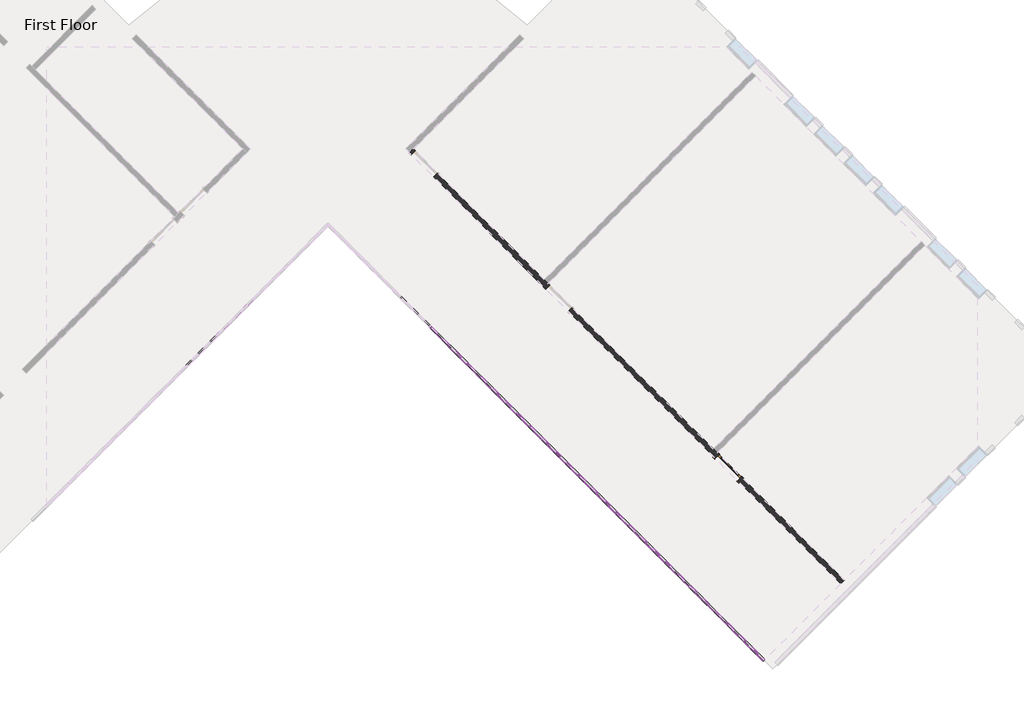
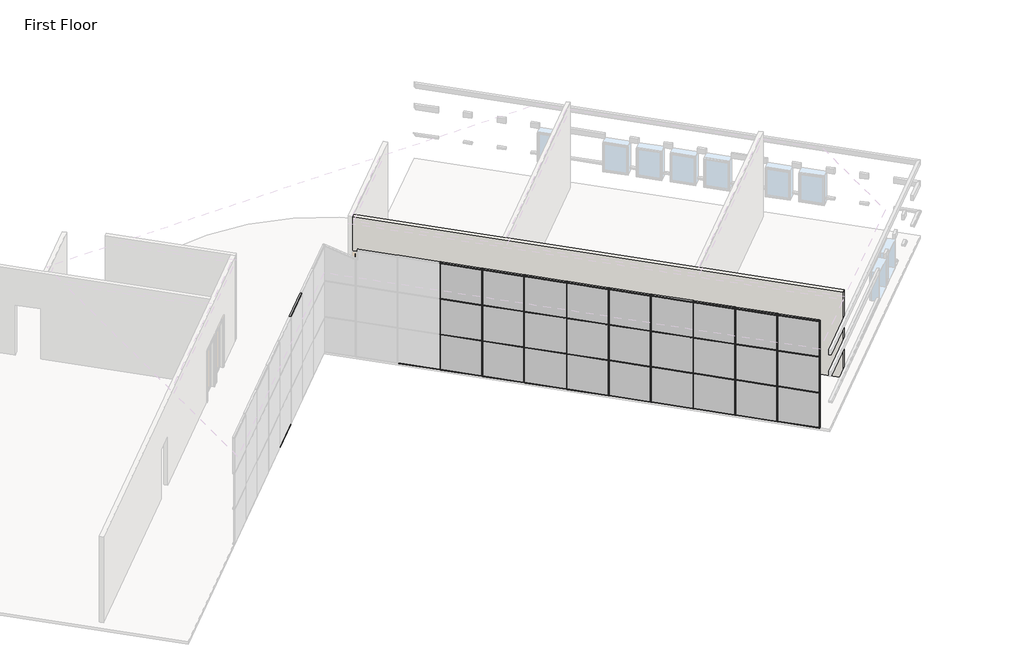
# One storey, part 2 of 5: 71 members, 27 plates, 1 door, 1 wall.
"""IFC4 building model written with IfcOpenShell, lengths in millimetres."""

from ifc_helpers import new_model, si_unit, origin, place, context, project, spatial, faceted_brep, transform, mapped, element, save
from components import door_5f5b55da, member_6121af53, member_155beb68, member_f5090587, member_42be4715, member_b8a5b5c0, member_b87a50da, system_panel_glazed_f8555db4, system_panel_glazed_da345f4e, system_panel_glazed_d4009c89, system_panel_glazed_f1e4c5b0, system_panel_solid_99f695d0, system_panel_solid_2f1037e2

model = new_model("IFC4")

# Units and contexts
model_context = context("Model", 3, world=origin())
ifc_project = project(units=[si_unit("LENGTHUNIT", "METRE", prefix="MILLI")], contexts=[model_context])

# Site, building, storey
site = spatial("IfcSite", under=ifc_project)
building = spatial("IfcBuilding", under=site)
storey = spatial("IfcBuildingStorey", under=building, Name="First Floor", Elevation=0.0)

# Door
placement = place(None, origin())
door_shape = door_5f5b55da(model_context)
element("IfcDoor", 1, ObjectType="Single-Glass 1 : 36\" x 84\"", at=placement, inside=storey, context=model_context, shape_type="MappedRepresentation", body=[
    mapped(door_shape, transform((8770.3835686, -4126.1534594, 0.0), x_axis=(-0.7071067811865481, 0.7071067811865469, 0.0), y_axis=(-0.7071067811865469, -0.7071067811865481, 0.0), z_axis=(0.0, 0.0, 1.0))),
])

# Members
member_shape = member_6121af53(model_context)
element("IfcMember", 2, ObjectType="Rectangular Mullion : 1.5\" x 2.5\" Rectangular", at=placement, inside=storey, context=model_context, shape_type="MappedRepresentation", body=[
    mapped(member_shape, transform((-6087.4501837, -266.8883914, 4572.0), x_axis=(0.0, 0.0, 1.0), y_axis=(-0.7071067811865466, 0.7071067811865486, 0.0), z_axis=(-0.7071067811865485, -0.7071067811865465, 0.0))),
])
element("IfcMember", 3, ObjectType="Rectangular Mullion : 1.5\" x 2.5\" Rectangular", at=placement, inside=storey, context=model_context, shape_type="MappedRepresentation", body=[
    mapped(member_shape, transform((2284.3935852, -2199.8885214, 4572.0), x_axis=(0.0, 0.0, 1.0), y_axis=(0.7071067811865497, 0.7071067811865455, 0.0), z_axis=(-0.7071067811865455, 0.7071067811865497, 0.0))),
])
element("IfcMember", 4, ObjectType="Rectangular Mullion : 1.5\" x 2.5\" Rectangular", at=placement, inside=storey, context=model_context, shape_type="MappedRepresentation", body=[
    mapped(member_shape, transform((3362.0243197, -3277.519256, 4572.0), x_axis=(0.0, 0.0, 1.0), y_axis=(0.70710678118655, 0.707106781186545, 0.0), z_axis=(-0.707106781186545, 0.70710678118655, 0.0))),
])
element("IfcMember", 5, ObjectType="Rectangular Mullion : 1.5\" x 2.5\" Rectangular", at=placement, inside=storey, context=model_context, shape_type="MappedRepresentation", body=[
    mapped(member_shape, transform((4439.6550542, -4355.1499905, 4572.0), x_axis=(0.0, 0.0, 1.0), y_axis=(0.7071067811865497, 0.7071067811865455, 0.0), z_axis=(-0.7071067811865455, 0.7071067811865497, 0.0))),
])
element("IfcMember", 6, ObjectType="Rectangular Mullion : 1.5\" x 2.5\" Rectangular", at=placement, inside=storey, context=model_context, shape_type="MappedRepresentation", body=[
    mapped(member_shape, transform((5517.2857887, -5432.780725, 4572.0), x_axis=(0.0, 0.0, 1.0), y_axis=(0.7071067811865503, 0.7071067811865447, 0.0), z_axis=(-0.7071067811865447, 0.7071067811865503, 0.0))),
])
element("IfcMember", 7, ObjectType="Rectangular Mullion : 1.5\" x 2.5\" Rectangular", at=placement, inside=storey, context=model_context, shape_type="MappedRepresentation", body=[
    mapped(member_shape, transform((6594.9165233, -6510.4114596, 4572.0), x_axis=(0.0, 0.0, 1.0), y_axis=(0.70710678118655, 0.707106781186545, 0.0), z_axis=(-0.7071067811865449, 0.7071067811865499, 0.0))),
])
element("IfcMember", 8, ObjectType="Rectangular Mullion : 1.5\" x 2.5\" Rectangular", at=placement, inside=storey, context=model_context, shape_type="MappedRepresentation", body=[
    mapped(member_shape, transform((7672.5472578, -7588.0421941, 4572.0), x_axis=(0.0, 0.0, 1.0), y_axis=(0.7071067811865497, 0.7071067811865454, 0.0), z_axis=(-0.7071067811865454, 0.7071067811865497, 0.0))),
])
element("IfcMember", 9, ObjectType="Rectangular Mullion : 1.5\" x 2.5\" Rectangular", at=placement, inside=storey, context=model_context, shape_type="MappedRepresentation", body=[
    mapped(member_shape, transform((1206.7628506, -1122.2577869, 4572.0), x_axis=(0.0, 0.0, 1.0), y_axis=(0.70710678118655, 0.707106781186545, 0.0), z_axis=(-0.707106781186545, 0.70710678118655, 0.0))),
])
element("IfcMember", 10, ObjectType="Rectangular Mullion : 1.5\" x 2.5\" Rectangular", at=placement, inside=storey, context=model_context, shape_type="MappedRepresentation", body=[
    mapped(member_shape, transform((129.1321161, -44.6270524, 4572.0), x_axis=(0.0, 0.0, 1.0), y_axis=(0.7071067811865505, 0.7071067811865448, 0.0), z_axis=(-0.7071067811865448, 0.7071067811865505, 0.0))),
])
member_2_shape = member_155beb68(model_context)
element("IfcMember", 11, ObjectType="Rectangular Mullion : 1.5\" x 2.5\" Rectangular", at=placement, inside=storey, context=model_context, shape_type="MappedRepresentation", body=[
    mapped(member_2_shape, transform((5503.8154046, -5419.3103408, 1524.0), x_axis=(-0.7071067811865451, 0.70710678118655, 0.0), y_axis=(0.70710678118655, 0.7071067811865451, 0.0), z_axis=(0.0, 0.0, -1.0))),
])
element("IfcMember", 12, ObjectType="Rectangular Mullion : 1.5\" x 2.5\" Rectangular", at=placement, inside=storey, context=model_context, shape_type="MappedRepresentation", body=[
    mapped(member_2_shape, transform((4426.18467, -4341.6796063, 1524.0), x_axis=(-0.7071067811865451, 0.70710678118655, 0.0), y_axis=(0.70710678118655, 0.7071067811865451, 0.0), z_axis=(0.0, 0.0, -1.0))),
])
element("IfcMember", 13, ObjectType="Rectangular Mullion : 1.5\" x 2.5\" Rectangular", at=placement, inside=storey, context=model_context, shape_type="MappedRepresentation", body=[
    mapped(member_2_shape, transform((3348.5539355, -3264.0488718, 1524.0), x_axis=(-0.7071067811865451, 0.70710678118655, 0.0), y_axis=(0.70710678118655, 0.7071067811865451, 0.0), z_axis=(0.0, 0.0, -1.0))),
])
element("IfcMember", 14, ObjectType="Rectangular Mullion : 1.5\" x 2.5\" Rectangular", at=placement, inside=storey, context=model_context, shape_type="MappedRepresentation", body=[
    mapped(member_2_shape, transform((2270.923201, -2186.4181373, 1524.0), x_axis=(-0.7071067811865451, 0.70710678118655, 0.0), y_axis=(0.70710678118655, 0.7071067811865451, 0.0), z_axis=(0.0, 0.0, -1.0))),
])
element("IfcMember", 15, ObjectType="Rectangular Mullion : 1.5\" x 2.5\" Rectangular", at=placement, inside=storey, context=model_context, shape_type="MappedRepresentation", body=[
    mapped(member_2_shape, transform((1193.2924664, -1108.7874027, 1524.0), x_axis=(-0.7071067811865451, 0.70710678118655, 0.0), y_axis=(0.70710678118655, 0.7071067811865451, 0.0), z_axis=(0.0, 0.0, -1.0))),
])
element("IfcMember", 16, ObjectType="Rectangular Mullion : 1.5\" x 2.5\" Rectangular", at=placement, inside=storey, context=model_context, shape_type="MappedRepresentation", body=[
    mapped(member_2_shape, transform((115.6617319, -31.1566682, 1524.0), x_axis=(-0.7071067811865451, 0.70710678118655, 0.0), y_axis=(0.70710678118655, 0.7071067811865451, 0.0), z_axis=(0.0, 0.0, -1.0))),
])
element("IfcMember", 17, ObjectType="Rectangular Mullion : 1.5\" x 2.5\" Rectangular", at=placement, inside=storey, context=model_context, shape_type="MappedRepresentation", body=[
    mapped(member_2_shape, transform((8736.7076081, -8652.2025444, 1524.0), x_axis=(-0.7071067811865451, 0.70710678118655, 0.0), y_axis=(0.70710678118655, 0.7071067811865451, 0.0), z_axis=(0.0, 0.0, -1.0))),
])
element("IfcMember", 18, ObjectType="Rectangular Mullion : 1.5\" x 2.5\" Rectangular", at=placement, inside=storey, context=model_context, shape_type="MappedRepresentation", body=[
    mapped(member_2_shape, transform((7659.0768736, -7574.5718099, 1524.0), x_axis=(-0.7071067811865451, 0.70710678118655, 0.0), y_axis=(0.70710678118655, 0.7071067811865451, 0.0), z_axis=(0.0, 0.0, -1.0))),
])
element("IfcMember", 19, ObjectType="Rectangular Mullion : 1.5\" x 2.5\" Rectangular", at=placement, inside=storey, context=model_context, shape_type="MappedRepresentation", body=[
    mapped(member_2_shape, transform((6581.4461391, -6496.9410754, 1524.0), x_axis=(-0.7071067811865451, 0.70710678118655, 0.0), y_axis=(0.70710678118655, 0.7071067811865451, 0.0), z_axis=(0.0, 0.0, -1.0))),
])
element("IfcMember", 20, ObjectType="Rectangular Mullion : 1.5\" x 2.5\" Rectangular", at=placement, inside=storey, context=model_context, shape_type="MappedRepresentation", body=[
    mapped(member_2_shape, transform((5503.8154046, -5419.3103408, 3048.0), x_axis=(-0.7071067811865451, 0.70710678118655, 0.0), y_axis=(0.70710678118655, 0.7071067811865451, 0.0), z_axis=(0.0, 0.0, -1.0))),
])
element("IfcMember", 21, ObjectType="Rectangular Mullion : 1.5\" x 2.5\" Rectangular", at=placement, inside=storey, context=model_context, shape_type="MappedRepresentation", body=[
    mapped(member_2_shape, transform((4426.18467, -4341.6796063, 3048.0), x_axis=(-0.7071067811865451, 0.70710678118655, 0.0), y_axis=(0.70710678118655, 0.7071067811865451, 0.0), z_axis=(0.0, 0.0, -1.0))),
])
element("IfcMember", 22, ObjectType="Rectangular Mullion : 1.5\" x 2.5\" Rectangular", at=placement, inside=storey, context=model_context, shape_type="MappedRepresentation", body=[
    mapped(member_2_shape, transform((3348.5539355, -3264.0488718, 3048.0), x_axis=(-0.7071067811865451, 0.70710678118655, 0.0), y_axis=(0.70710678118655, 0.7071067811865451, 0.0), z_axis=(0.0, 0.0, -1.0))),
])
element("IfcMember", 23, ObjectType="Rectangular Mullion : 1.5\" x 2.5\" Rectangular", at=placement, inside=storey, context=model_context, shape_type="MappedRepresentation", body=[
    mapped(member_2_shape, transform((2270.923201, -2186.4181373, 3048.0), x_axis=(-0.7071067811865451, 0.70710678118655, 0.0), y_axis=(0.70710678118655, 0.7071067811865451, 0.0), z_axis=(0.0, 0.0, -1.0))),
])
element("IfcMember", 24, ObjectType="Rectangular Mullion : 1.5\" x 2.5\" Rectangular", at=placement, inside=storey, context=model_context, shape_type="MappedRepresentation", body=[
    mapped(member_2_shape, transform((1193.2924664, -1108.7874027, 3048.0), x_axis=(-0.7071067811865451, 0.70710678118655, 0.0), y_axis=(0.70710678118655, 0.7071067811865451, 0.0), z_axis=(0.0, 0.0, -1.0))),
])
element("IfcMember", 25, ObjectType="Rectangular Mullion : 1.5\" x 2.5\" Rectangular", at=placement, inside=storey, context=model_context, shape_type="MappedRepresentation", body=[
    mapped(member_2_shape, transform((115.6617319, -31.1566682, 3048.0), x_axis=(-0.7071067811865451, 0.70710678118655, 0.0), y_axis=(0.70710678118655, 0.7071067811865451, 0.0), z_axis=(0.0, 0.0, -1.0))),
])
element("IfcMember", 26, ObjectType="Rectangular Mullion : 1.5\" x 2.5\" Rectangular", at=placement, inside=storey, context=model_context, shape_type="MappedRepresentation", body=[
    mapped(member_2_shape, transform((8736.7076081, -8652.2025444, 3048.0), x_axis=(-0.7071067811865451, 0.70710678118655, 0.0), y_axis=(0.70710678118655, 0.7071067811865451, 0.0), z_axis=(0.0, 0.0, -1.0))),
])
element("IfcMember", 27, ObjectType="Rectangular Mullion : 1.5\" x 2.5\" Rectangular", at=placement, inside=storey, context=model_context, shape_type="MappedRepresentation", body=[
    mapped(member_2_shape, transform((7659.0768736, -7574.5718099, 3048.0), x_axis=(-0.7071067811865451, 0.70710678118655, 0.0), y_axis=(0.70710678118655, 0.7071067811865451, 0.0), z_axis=(0.0, 0.0, -1.0))),
])
element("IfcMember", 28, ObjectType="Rectangular Mullion : 1.5\" x 2.5\" Rectangular", at=placement, inside=storey, context=model_context, shape_type="MappedRepresentation", body=[
    mapped(member_2_shape, transform((6581.4461391, -6496.9410754, 3048.0), x_axis=(-0.7071067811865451, 0.70710678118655, 0.0), y_axis=(0.70710678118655, 0.7071067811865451, 0.0), z_axis=(0.0, 0.0, -1.0))),
])
element("IfcMember", 29, ObjectType="Rectangular Mullion : 1.5\" x 2.5\" Rectangular", at=placement, inside=storey, context=model_context, shape_type="MappedRepresentation", body=[
    mapped(member_2_shape, transform((-6100.9205679, -280.3587756, 0.0), x_axis=(-0.7071067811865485, -0.7071067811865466, 0.0), y_axis=(-0.7071067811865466, 0.7071067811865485, 0.0), z_axis=(0.0, 0.0, -1.0))),
])
element("IfcMember", 30, ObjectType="Rectangular Mullion : 1.5\" x 2.5\" Rectangular", at=placement, inside=storey, context=model_context, shape_type="MappedRepresentation", body=[
    mapped(member_2_shape, transform((115.6617319, -31.1566682, 0.0), x_axis=(-0.7071067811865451, 0.70710678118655, 0.0), y_axis=(0.70710678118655, 0.7071067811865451, 0.0), z_axis=(0.0, 0.0, -1.0))),
])
element("IfcMember", 31, ObjectType="Rectangular Mullion : 1.5\" x 2.5\" Rectangular", at=placement, inside=storey, context=model_context, shape_type="MappedRepresentation", body=[
    mapped(member_2_shape, transform((1193.2924664, -1108.7874027, 0.0), x_axis=(-0.7071067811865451, 0.70710678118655, 0.0), y_axis=(0.70710678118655, 0.7071067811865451, 0.0), z_axis=(0.0, 0.0, -1.0))),
])
element("IfcMember", 32, ObjectType="Rectangular Mullion : 1.5\" x 2.5\" Rectangular", at=placement, inside=storey, context=model_context, shape_type="MappedRepresentation", body=[
    mapped(member_2_shape, transform((2270.923201, -2186.4181373, 0.0), x_axis=(-0.7071067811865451, 0.70710678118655, 0.0), y_axis=(0.70710678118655, 0.7071067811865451, 0.0), z_axis=(0.0, 0.0, -1.0))),
])
element("IfcMember", 33, ObjectType="Rectangular Mullion : 1.5\" x 2.5\" Rectangular", at=placement, inside=storey, context=model_context, shape_type="MappedRepresentation", body=[
    mapped(member_2_shape, transform((3348.5539355, -3264.0488718, 0.0), x_axis=(-0.7071067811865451, 0.70710678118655, 0.0), y_axis=(0.70710678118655, 0.7071067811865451, 0.0), z_axis=(0.0, 0.0, -1.0))),
])
element("IfcMember", 34, ObjectType="Rectangular Mullion : 1.5\" x 2.5\" Rectangular", at=placement, inside=storey, context=model_context, shape_type="MappedRepresentation", body=[
    mapped(member_2_shape, transform((4426.18467, -4341.6796063, 0.0), x_axis=(-0.7071067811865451, 0.70710678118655, 0.0), y_axis=(0.70710678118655, 0.7071067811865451, 0.0), z_axis=(0.0, 0.0, -1.0))),
])
element("IfcMember", 35, ObjectType="Rectangular Mullion : 1.5\" x 2.5\" Rectangular", at=placement, inside=storey, context=model_context, shape_type="MappedRepresentation", body=[
    mapped(member_2_shape, transform((5503.8154046, -5419.3103408, 0.0), x_axis=(-0.7071067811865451, 0.70710678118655, 0.0), y_axis=(0.70710678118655, 0.7071067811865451, 0.0), z_axis=(0.0, 0.0, -1.0))),
])
element("IfcMember", 36, ObjectType="Rectangular Mullion : 1.5\" x 2.5\" Rectangular", at=placement, inside=storey, context=model_context, shape_type="MappedRepresentation", body=[
    mapped(member_2_shape, transform((6581.4461391, -6496.9410754, 0.0), x_axis=(-0.7071067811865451, 0.70710678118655, 0.0), y_axis=(0.70710678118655, 0.7071067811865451, 0.0), z_axis=(0.0, 0.0, -1.0))),
])
element("IfcMember", 37, ObjectType="Rectangular Mullion : 1.5\" x 2.5\" Rectangular", at=placement, inside=storey, context=model_context, shape_type="MappedRepresentation", body=[
    mapped(member_2_shape, transform((7659.0768736, -7574.5718099, 0.0), x_axis=(-0.7071067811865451, 0.70710678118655, 0.0), y_axis=(0.70710678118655, 0.7071067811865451, 0.0), z_axis=(0.0, 0.0, -1.0))),
])
element("IfcMember", 38, ObjectType="Rectangular Mullion : 1.5\" x 2.5\" Rectangular", at=placement, inside=storey, context=model_context, shape_type="MappedRepresentation", body=[
    mapped(member_2_shape, transform((8736.7076081, -8652.2025444, 0.0), x_axis=(-0.7071067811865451, 0.70710678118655, 0.0), y_axis=(0.70710678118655, 0.7071067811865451, 0.0), z_axis=(0.0, 0.0, -1.0))),
])
member_3_shape = member_f5090587(model_context)
element("IfcMember", 39, ObjectType="Rectangular Mullion : 1.5\" x 2.5\" Rectangular", at=placement, inside=storey, context=model_context, shape_type="MappedRepresentation", body=[
    mapped(member_3_shape, transform((8750.1779923, -8665.6729286, 3048.0), x_axis=(0.0, 0.0, 1.0), y_axis=(0.7071067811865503, 0.7071067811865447, 0.0), z_axis=(-0.7071067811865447, 0.7071067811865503, 0.0))),
])
element("IfcMember", 40, ObjectType="Rectangular Mullion : 1.5\" x 2.5\" Rectangular", at=placement, inside=storey, context=model_context, shape_type="MappedRepresentation", body=[
    mapped(member_3_shape, transform((8750.1779923, -8665.6729286, 1524.0), x_axis=(0.0, 0.0, 1.0), y_axis=(0.7071067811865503, 0.7071067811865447, 0.0), z_axis=(-0.7071067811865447, 0.7071067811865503, 0.0))),
])
member_4_shape = member_42be4715(model_context)
element("IfcMember", 41, ObjectType="Rectangular Mullion : 1.5\" x 2.5\" Rectangular", at=placement, inside=storey, context=model_context, shape_type="MappedRepresentation", body=[
    mapped(member_4_shape, transform((-6087.4501837, -266.8883914, 1524.0), x_axis=(0.0, 0.0, 1.0), y_axis=(-0.7071067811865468, 0.7071067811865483, 0.0), z_axis=(-0.7071067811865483, -0.7071067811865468, 0.0))),
])
element("IfcMember", 42, ObjectType="Rectangular Mullion : 1.5\" x 2.5\" Rectangular", at=placement, inside=storey, context=model_context, shape_type="MappedRepresentation", body=[
    mapped(member_4_shape, transform((129.1321161, -44.6270524, 3048.0), x_axis=(0.0, 0.0, 1.0), y_axis=(0.7071067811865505, 0.7071067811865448, 0.0), z_axis=(-0.7071067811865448, 0.7071067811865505, 0.0))),
])
element("IfcMember", 43, ObjectType="Rectangular Mullion : 1.5\" x 2.5\" Rectangular", at=placement, inside=storey, context=model_context, shape_type="MappedRepresentation", body=[
    mapped(member_4_shape, transform((1206.7628506, -1122.2577869, 3048.0), x_axis=(0.0, 0.0, 1.0), y_axis=(0.70710678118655, 0.707106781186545, 0.0), z_axis=(-0.707106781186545, 0.70710678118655, 0.0))),
])
element("IfcMember", 44, ObjectType="Rectangular Mullion : 1.5\" x 2.5\" Rectangular", at=placement, inside=storey, context=model_context, shape_type="MappedRepresentation", body=[
    mapped(member_4_shape, transform((2284.3935852, -2199.8885214, 3048.0), x_axis=(0.0, 0.0, 1.0), y_axis=(0.7071067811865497, 0.7071067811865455, 0.0), z_axis=(-0.7071067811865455, 0.7071067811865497, 0.0))),
])
element("IfcMember", 45, ObjectType="Rectangular Mullion : 1.5\" x 2.5\" Rectangular", at=placement, inside=storey, context=model_context, shape_type="MappedRepresentation", body=[
    mapped(member_4_shape, transform((3362.0243197, -3277.519256, 3048.0), x_axis=(0.0, 0.0, 1.0), y_axis=(0.70710678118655, 0.707106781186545, 0.0), z_axis=(-0.707106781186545, 0.70710678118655, 0.0))),
])
element("IfcMember", 46, ObjectType="Rectangular Mullion : 1.5\" x 2.5\" Rectangular", at=placement, inside=storey, context=model_context, shape_type="MappedRepresentation", body=[
    mapped(member_4_shape, transform((4439.6550542, -4355.1499905, 3048.0), x_axis=(0.0, 0.0, 1.0), y_axis=(0.7071067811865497, 0.7071067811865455, 0.0), z_axis=(-0.7071067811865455, 0.7071067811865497, 0.0))),
])
element("IfcMember", 47, ObjectType="Rectangular Mullion : 1.5\" x 2.5\" Rectangular", at=placement, inside=storey, context=model_context, shape_type="MappedRepresentation", body=[
    mapped(member_4_shape, transform((5517.2857887, -5432.780725, 3048.0), x_axis=(0.0, 0.0, 1.0), y_axis=(0.7071067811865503, 0.7071067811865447, 0.0), z_axis=(-0.7071067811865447, 0.7071067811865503, 0.0))),
])
element("IfcMember", 48, ObjectType="Rectangular Mullion : 1.5\" x 2.5\" Rectangular", at=placement, inside=storey, context=model_context, shape_type="MappedRepresentation", body=[
    mapped(member_4_shape, transform((6594.9165233, -6510.4114596, 3048.0), x_axis=(0.0, 0.0, 1.0), y_axis=(0.7071067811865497, 0.7071067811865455, 0.0), z_axis=(-0.7071067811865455, 0.7071067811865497, 0.0))),
])
element("IfcMember", 49, ObjectType="Rectangular Mullion : 1.5\" x 2.5\" Rectangular", at=placement, inside=storey, context=model_context, shape_type="MappedRepresentation", body=[
    mapped(member_4_shape, transform((7672.5472578, -7588.0421941, 3048.0), x_axis=(0.0, 0.0, 1.0), y_axis=(0.70710678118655, 0.707106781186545, 0.0), z_axis=(-0.707106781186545, 0.70710678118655, 0.0))),
])
element("IfcMember", 50, ObjectType="Rectangular Mullion : 1.5\" x 2.5\" Rectangular", at=placement, inside=storey, context=model_context, shape_type="MappedRepresentation", body=[
    mapped(member_4_shape, transform((129.1321161, -44.6270524, 1524.0), x_axis=(0.0, 0.0, 1.0), y_axis=(0.7071067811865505, 0.7071067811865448, 0.0), z_axis=(-0.7071067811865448, 0.7071067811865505, 0.0))),
])
element("IfcMember", 51, ObjectType="Rectangular Mullion : 1.5\" x 2.5\" Rectangular", at=placement, inside=storey, context=model_context, shape_type="MappedRepresentation", body=[
    mapped(member_4_shape, transform((1206.7628506, -1122.2577869, 1524.0), x_axis=(0.0, 0.0, 1.0), y_axis=(0.7071067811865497, 0.7071067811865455, 0.0), z_axis=(-0.7071067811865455, 0.7071067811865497, 0.0))),
])
element("IfcMember", 52, ObjectType="Rectangular Mullion : 1.5\" x 2.5\" Rectangular", at=placement, inside=storey, context=model_context, shape_type="MappedRepresentation", body=[
    mapped(member_4_shape, transform((2284.3935852, -2199.8885214, 1524.0), x_axis=(0.0, 0.0, 1.0), y_axis=(0.70710678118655, 0.707106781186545, 0.0), z_axis=(-0.707106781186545, 0.70710678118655, 0.0))),
])
element("IfcMember", 53, ObjectType="Rectangular Mullion : 1.5\" x 2.5\" Rectangular", at=placement, inside=storey, context=model_context, shape_type="MappedRepresentation", body=[
    mapped(member_4_shape, transform((3362.0243197, -3277.519256, 1524.0), x_axis=(0.0, 0.0, 1.0), y_axis=(0.70710678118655, 0.707106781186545, 0.0), z_axis=(-0.707106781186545, 0.70710678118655, 0.0))),
])
element("IfcMember", 54, ObjectType="Rectangular Mullion : 1.5\" x 2.5\" Rectangular", at=placement, inside=storey, context=model_context, shape_type="MappedRepresentation", body=[
    mapped(member_4_shape, transform((4439.6550542, -4355.1499905, 1524.0), x_axis=(0.0, 0.0, 1.0), y_axis=(0.7071067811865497, 0.7071067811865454, 0.0), z_axis=(-0.7071067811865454, 0.7071067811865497, 0.0))),
])
element("IfcMember", 55, ObjectType="Rectangular Mullion : 1.5\" x 2.5\" Rectangular", at=placement, inside=storey, context=model_context, shape_type="MappedRepresentation", body=[
    mapped(member_4_shape, transform((5517.2857887, -5432.780725, 1524.0), x_axis=(0.0, 0.0, 1.0), y_axis=(0.7071067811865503, 0.7071067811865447, 0.0), z_axis=(-0.7071067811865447, 0.7071067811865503, 0.0))),
])
element("IfcMember", 56, ObjectType="Rectangular Mullion : 1.5\" x 2.5\" Rectangular", at=placement, inside=storey, context=model_context, shape_type="MappedRepresentation", body=[
    mapped(member_4_shape, transform((6594.9165233, -6510.4114596, 1524.0), x_axis=(0.0, 0.0, 1.0), y_axis=(0.7071067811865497, 0.7071067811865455, 0.0), z_axis=(-0.7071067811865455, 0.7071067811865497, 0.0))),
])
element("IfcMember", 57, ObjectType="Rectangular Mullion : 1.5\" x 2.5\" Rectangular", at=placement, inside=storey, context=model_context, shape_type="MappedRepresentation", body=[
    mapped(member_4_shape, transform((7672.5472578, -7588.0421941, 1524.0), x_axis=(0.0, 0.0, 1.0), y_axis=(0.70710678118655, 0.707106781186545, 0.0), z_axis=(-0.707106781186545, 0.70710678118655, 0.0))),
])
member_5_shape = member_b8a5b5c0(model_context)
element("IfcMember", 58, ObjectType="Rectangular Mullion : 1.5\" x 2.5\" Rectangular", at=placement, inside=storey, context=model_context, shape_type="MappedRepresentation", body=[
    mapped(member_5_shape, transform((9787.3975743, -9702.8925106, 0.0), x_axis=(0.0, 0.0, -1.0), y_axis=(0.7071067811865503, 0.7071067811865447, 0.0), z_axis=(0.7071067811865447, -0.7071067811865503, 0.0))),
])
element("IfcMember", 59, ObjectType="Rectangular Mullion : 1.5\" x 2.5\" Rectangular", at=placement, inside=storey, context=model_context, shape_type="MappedRepresentation", body=[
    mapped(member_shape, transform((-6114.3909521, -293.8291597, 0.0), x_axis=(0.0, 0.0, -1.0), y_axis=(-0.7071067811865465, 0.7071067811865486, 0.0), z_axis=(0.7071067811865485, 0.7071067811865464, 0.0))),
])
element("IfcMember", 60, ObjectType="Rectangular Mullion : 1.5\" x 2.5\" Rectangular", at=placement, inside=storey, context=model_context, shape_type="MappedRepresentation", body=[
    mapped(member_shape, transform((6567.9757549, -6483.4706912, 0.0), x_axis=(0.0, 0.0, -1.0), y_axis=(0.7071067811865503, 0.7071067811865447, 0.0), z_axis=(0.7071067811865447, -0.7071067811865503, 0.0))),
])
element("IfcMember", 61, ObjectType="Rectangular Mullion : 1.5\" x 2.5\" Rectangular", at=placement, inside=storey, context=model_context, shape_type="MappedRepresentation", body=[
    mapped(member_shape, transform((7645.6064894, -7561.1014257, 0.0), x_axis=(0.0, 0.0, -1.0), y_axis=(0.7071067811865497, 0.7071067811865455, 0.0), z_axis=(0.7071067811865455, -0.7071067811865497, 0.0))),
])
element("IfcMember", 62, ObjectType="Rectangular Mullion : 1.5\" x 2.5\" Rectangular", at=placement, inside=storey, context=model_context, shape_type="MappedRepresentation", body=[
    mapped(member_shape, transform((8723.237224, -8638.7321603, 0.0), x_axis=(0.0, 0.0, -1.0), y_axis=(0.70710678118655, 0.707106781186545, 0.0), z_axis=(0.707106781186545, -0.70710678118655, 0.0))),
])
element("IfcMember", 63, ObjectType="Rectangular Mullion : 1.5\" x 2.5\" Rectangular", at=placement, inside=storey, context=model_context, shape_type="MappedRepresentation", body=[
    mapped(member_shape, transform((102.1913477, -17.686284, 0.0), x_axis=(0.0, 0.0, -1.0), y_axis=(0.7071067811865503, 0.7071067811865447, 0.0), z_axis=(0.7071067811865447, -0.7071067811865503, 0.0))),
])
element("IfcMember", 64, ObjectType="Rectangular Mullion : 1.5\" x 2.5\" Rectangular", at=placement, inside=storey, context=model_context, shape_type="MappedRepresentation", body=[
    mapped(member_shape, transform((1179.8220823, -1095.3170186, 0.0), x_axis=(0.0, 0.0, -1.0), y_axis=(0.7071067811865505, 0.7071067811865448, 0.0), z_axis=(0.7071067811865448, -0.7071067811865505, 0.0))),
])
element("IfcMember", 65, ObjectType="Rectangular Mullion : 1.5\" x 2.5\" Rectangular", at=placement, inside=storey, context=model_context, shape_type="MappedRepresentation", body=[
    mapped(member_shape, transform((2257.4528168, -2172.9477531, 0.0), x_axis=(0.0, 0.0, -1.0), y_axis=(0.7071067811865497, 0.7071067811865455, 0.0), z_axis=(0.7071067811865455, -0.7071067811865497, 0.0))),
])
element("IfcMember", 66, ObjectType="Rectangular Mullion : 1.5\" x 2.5\" Rectangular", at=placement, inside=storey, context=model_context, shape_type="MappedRepresentation", body=[
    mapped(member_shape, transform((3335.0835513, -3250.5784876, 0.0), x_axis=(0.0, 0.0, -1.0), y_axis=(0.70710678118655, 0.707106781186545, 0.0), z_axis=(0.707106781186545, -0.70710678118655, 0.0))),
])
element("IfcMember", 67, ObjectType="Rectangular Mullion : 1.5\" x 2.5\" Rectangular", at=placement, inside=storey, context=model_context, shape_type="MappedRepresentation", body=[
    mapped(member_shape, transform((4412.7142859, -4328.2092221, 0.0), x_axis=(0.0, 0.0, -1.0), y_axis=(0.70710678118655, 0.707106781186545, 0.0), z_axis=(0.707106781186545, -0.70710678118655, 0.0))),
])
element("IfcMember", 68, ObjectType="Rectangular Mullion : 1.5\" x 2.5\" Rectangular", at=placement, inside=storey, context=model_context, shape_type="MappedRepresentation", body=[
    mapped(member_shape, transform((5490.3450204, -5405.8399567, 0.0), x_axis=(0.0, 0.0, -1.0), y_axis=(0.7071067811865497, 0.7071067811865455, 0.0), z_axis=(0.7071067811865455, -0.7071067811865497, 0.0))),
])
element("IfcMember", 69, ObjectType="Rectangular Mullion : 1.5\" x 2.5\" Rectangular", at=placement, inside=storey, context=model_context, shape_type="MappedRepresentation", body=[
    mapped(member_5_shape, transform((8750.1779923, -8665.6729286, 4572.0), x_axis=(0.0, 0.0, 1.0), y_axis=(0.7071067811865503, 0.7071067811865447, 0.0), z_axis=(-0.7071067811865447, 0.7071067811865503, 0.0))),
])
member_6_shape = member_b87a50da(model_context)
element("IfcMember", 70, ObjectType="Rectangular Mullion : 1.5\" x 2.5\" Rectangular", at=placement, inside=storey, context=model_context, shape_type="MappedRepresentation", body=[
    mapped(member_6_shape, transform((9814.3383427, -9729.833279, 1524.0), x_axis=(0.7071067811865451, -0.70710678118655, 0.0), y_axis=(0.70710678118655, 0.7071067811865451, 0.0), z_axis=(0.0, 0.0, 1.0))),
])
element("IfcMember", 71, ObjectType="Rectangular Mullion : 1.5\" x 2.5\" Rectangular", at=placement, inside=storey, context=model_context, shape_type="MappedRepresentation", body=[
    mapped(member_6_shape, transform((9814.3383427, -9729.833279, 3048.0), x_axis=(0.7071067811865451, -0.70710678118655, 0.0), y_axis=(0.70710678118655, 0.7071067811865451, 0.0), z_axis=(0.0, 0.0, 1.0))),
])
element("IfcMember", 72, ObjectType="Rectangular Mullion : 1.5\" x 2.5\" Rectangular", at=placement, inside=storey, context=model_context, shape_type="MappedRepresentation", body=[
    mapped(member_6_shape, transform((9814.3383427, -9729.833279, 4572.0), x_axis=(0.7071067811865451, -0.70710678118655, 0.0), y_axis=(0.70710678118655, 0.7071067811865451, 0.0), z_axis=(0.0, 0.0, 1.0))),
])

# Plates
system_panel_glazed_shape = system_panel_glazed_f8555db4(model_context)
element("IfcPlate", 73, ObjectType="System Panel : Glazed", at=placement, inside=storey, context=model_context, shape_type="MappedRepresentation", body=[
    mapped(system_panel_glazed_shape, transform((9268.7877833, -9184.2827196, 38.1), x_axis=(-0.7071067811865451, 0.70710678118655, 0.0), y_axis=(-0.70710678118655, -0.7071067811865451, 0.0), z_axis=(0.0, 0.0, 1.0))),
])
system_panel_glazed_2_shape = system_panel_glazed_da345f4e(model_context)
element("IfcPlate", 74, ObjectType="System Panel : Glazed", at=placement, inside=storey, context=model_context, shape_type="MappedRepresentation", body=[
    mapped(system_panel_glazed_2_shape, transform((8197.8922409, -8113.3871772, 38.1), x_axis=(-0.7071067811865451, 0.70710678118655, 0.0), y_axis=(-0.70710678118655, -0.7071067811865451, 0.0), z_axis=(0.0, 0.0, 1.0))),
])
element("IfcPlate", 75, ObjectType="System Panel : Glazed", at=placement, inside=storey, context=model_context, shape_type="MappedRepresentation", body=[
    mapped(system_panel_glazed_2_shape, transform((7120.2615064, -7035.7564426, 38.1), x_axis=(-0.7071067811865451, 0.70710678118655, 0.0), y_axis=(-0.70710678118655, -0.7071067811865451, 0.0), z_axis=(0.0, 0.0, 1.0))),
])
element("IfcPlate", 76, ObjectType="System Panel : Glazed", at=placement, inside=storey, context=model_context, shape_type="MappedRepresentation", body=[
    mapped(system_panel_glazed_2_shape, transform((6042.6307718, -5958.1257081, 38.1), x_axis=(-0.7071067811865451, 0.70710678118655, 0.0), y_axis=(-0.70710678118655, -0.7071067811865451, 0.0), z_axis=(0.0, 0.0, 1.0))),
])
element("IfcPlate", 77, ObjectType="System Panel : Glazed", at=placement, inside=storey, context=model_context, shape_type="MappedRepresentation", body=[
    mapped(system_panel_glazed_2_shape, transform((4965.0000373, -4880.4949736, 38.1), x_axis=(-0.7071067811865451, 0.70710678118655, 0.0), y_axis=(-0.70710678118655, -0.7071067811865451, 0.0), z_axis=(0.0, 0.0, 1.0))),
])
element("IfcPlate", 78, ObjectType="System Panel : Glazed", at=placement, inside=storey, context=model_context, shape_type="MappedRepresentation", body=[
    mapped(system_panel_glazed_2_shape, transform((3887.3693028, -3802.8642391, 38.1), x_axis=(-0.7071067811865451, 0.70710678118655, 0.0), y_axis=(-0.70710678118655, -0.7071067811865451, 0.0), z_axis=(0.0, 0.0, 1.0))),
])
element("IfcPlate", 79, ObjectType="System Panel : Glazed", at=placement, inside=storey, context=model_context, shape_type="MappedRepresentation", body=[
    mapped(system_panel_glazed_2_shape, transform((2809.7385682, -2725.2335045, 38.1), x_axis=(-0.7071067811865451, 0.70710678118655, 0.0), y_axis=(-0.70710678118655, -0.7071067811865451, 0.0), z_axis=(0.0, 0.0, 1.0))),
])
element("IfcPlate", 80, ObjectType="System Panel : Glazed", at=placement, inside=storey, context=model_context, shape_type="MappedRepresentation", body=[
    mapped(system_panel_glazed_2_shape, transform((1732.1078337, -1647.60277, 38.1), x_axis=(-0.7071067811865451, 0.70710678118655, 0.0), y_axis=(-0.70710678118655, -0.7071067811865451, 0.0), z_axis=(0.0, 0.0, 1.0))),
])
element("IfcPlate", 81, ObjectType="System Panel : Glazed", at=placement, inside=storey, context=model_context, shape_type="MappedRepresentation", body=[
    mapped(system_panel_glazed_2_shape, transform((654.4770992, -569.9720355, 38.1), x_axis=(-0.7071067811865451, 0.70710678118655, 0.0), y_axis=(-0.70710678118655, -0.7071067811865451, 0.0), z_axis=(0.0, 0.0, 1.0))),
])
system_panel_glazed_3_shape = system_panel_glazed_d4009c89(model_context)
element("IfcPlate", 82, ObjectType="System Panel : Glazed", at=placement, inside=storey, context=model_context, shape_type="MappedRepresentation", body=[
    mapped(system_panel_glazed_3_shape, transform((9268.7877833, -9184.2827196, 1543.05), x_axis=(-0.7071067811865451, 0.70710678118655, 0.0), y_axis=(-0.70710678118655, -0.7071067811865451, 0.0), z_axis=(0.0, 0.0, 1.0))),
])
system_panel_glazed_4_shape = system_panel_glazed_f1e4c5b0(model_context)
element("IfcPlate", 83, ObjectType="System Panel : Glazed", at=placement, inside=storey, context=model_context, shape_type="MappedRepresentation", body=[
    mapped(system_panel_glazed_4_shape, transform((8197.8922409, -8113.3871772, 1543.05), x_axis=(-0.7071067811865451, 0.70710678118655, 0.0), y_axis=(-0.70710678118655, -0.7071067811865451, 0.0), z_axis=(0.0, 0.0, 1.0))),
])
element("IfcPlate", 84, ObjectType="System Panel : Glazed", at=placement, inside=storey, context=model_context, shape_type="MappedRepresentation", body=[
    mapped(system_panel_glazed_4_shape, transform((7120.2615064, -7035.7564426, 1543.05), x_axis=(-0.7071067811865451, 0.70710678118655, 0.0), y_axis=(-0.70710678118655, -0.7071067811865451, 0.0), z_axis=(0.0, 0.0, 1.0))),
])
element("IfcPlate", 85, ObjectType="System Panel : Glazed", at=placement, inside=storey, context=model_context, shape_type="MappedRepresentation", body=[
    mapped(system_panel_glazed_4_shape, transform((6042.6307718, -5958.1257081, 1543.05), x_axis=(-0.7071067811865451, 0.70710678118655, 0.0), y_axis=(-0.70710678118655, -0.7071067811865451, 0.0), z_axis=(0.0, 0.0, 1.0))),
])
element("IfcPlate", 86, ObjectType="System Panel : Glazed", at=placement, inside=storey, context=model_context, shape_type="MappedRepresentation", body=[
    mapped(system_panel_glazed_4_shape, transform((4965.0000373, -4880.4949736, 1543.05), x_axis=(-0.7071067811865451, 0.70710678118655, 0.0), y_axis=(-0.70710678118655, -0.7071067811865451, 0.0), z_axis=(0.0, 0.0, 1.0))),
])
element("IfcPlate", 87, ObjectType="System Panel : Glazed", at=placement, inside=storey, context=model_context, shape_type="MappedRepresentation", body=[
    mapped(system_panel_glazed_4_shape, transform((3887.3693028, -3802.8642391, 1543.05), x_axis=(-0.7071067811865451, 0.70710678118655, 0.0), y_axis=(-0.70710678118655, -0.7071067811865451, 0.0), z_axis=(0.0, 0.0, 1.0))),
])
element("IfcPlate", 88, ObjectType="System Panel : Glazed", at=placement, inside=storey, context=model_context, shape_type="MappedRepresentation", body=[
    mapped(system_panel_glazed_4_shape, transform((2809.7385682, -2725.2335045, 1543.05), x_axis=(-0.7071067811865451, 0.70710678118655, 0.0), y_axis=(-0.70710678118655, -0.7071067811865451, 0.0), z_axis=(0.0, 0.0, 1.0))),
])
element("IfcPlate", 89, ObjectType="System Panel : Glazed", at=placement, inside=storey, context=model_context, shape_type="MappedRepresentation", body=[
    mapped(system_panel_glazed_4_shape, transform((1732.1078337, -1647.60277, 1543.05), x_axis=(-0.7071067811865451, 0.70710678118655, 0.0), y_axis=(-0.70710678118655, -0.7071067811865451, 0.0), z_axis=(0.0, 0.0, 1.0))),
])
element("IfcPlate", 90, ObjectType="System Panel : Glazed", at=placement, inside=storey, context=model_context, shape_type="MappedRepresentation", body=[
    mapped(system_panel_glazed_4_shape, transform((654.4770992, -569.9720355, 1543.05), x_axis=(-0.7071067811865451, 0.70710678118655, 0.0), y_axis=(-0.70710678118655, -0.7071067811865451, 0.0), z_axis=(0.0, 0.0, 1.0))),
])
system_panel_solid_shape = system_panel_solid_99f695d0(model_context)
element("IfcPlate", 91, ObjectType="System Panel : Solid", at=placement, inside=storey, context=model_context, shape_type="MappedRepresentation", body=[
    mapped(system_panel_solid_shape, transform((9268.7877833, -9184.2827196, 3067.05), x_axis=(-0.7071067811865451, 0.70710678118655, 0.0), y_axis=(-0.70710678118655, -0.7071067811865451, 0.0), z_axis=(0.0, 0.0, 1.0))),
])
system_panel_solid_2_shape = system_panel_solid_2f1037e2(model_context)
element("IfcPlate", 92, ObjectType="System Panel : Solid", at=placement, inside=storey, context=model_context, shape_type="MappedRepresentation", body=[
    mapped(system_panel_solid_2_shape, transform((8197.8922409, -8113.3871772, 3067.05), x_axis=(-0.7071067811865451, 0.70710678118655, 0.0), y_axis=(-0.70710678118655, -0.7071067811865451, 0.0), z_axis=(0.0, 0.0, 1.0))),
])
element("IfcPlate", 93, ObjectType="System Panel : Solid", at=placement, inside=storey, context=model_context, shape_type="MappedRepresentation", body=[
    mapped(system_panel_solid_2_shape, transform((7120.2615064, -7035.7564426, 3067.05), x_axis=(-0.7071067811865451, 0.70710678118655, 0.0), y_axis=(-0.70710678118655, -0.7071067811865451, 0.0), z_axis=(0.0, 0.0, 1.0))),
])
element("IfcPlate", 94, ObjectType="System Panel : Solid", at=placement, inside=storey, context=model_context, shape_type="MappedRepresentation", body=[
    mapped(system_panel_solid_2_shape, transform((6042.6307718, -5958.1257081, 3067.05), x_axis=(-0.7071067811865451, 0.70710678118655, 0.0), y_axis=(-0.70710678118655, -0.7071067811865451, 0.0), z_axis=(0.0, 0.0, 1.0))),
])
element("IfcPlate", 95, ObjectType="System Panel : Solid", at=placement, inside=storey, context=model_context, shape_type="MappedRepresentation", body=[
    mapped(system_panel_solid_2_shape, transform((4965.0000373, -4880.4949736, 3067.05), x_axis=(-0.7071067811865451, 0.70710678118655, 0.0), y_axis=(-0.70710678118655, -0.7071067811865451, 0.0), z_axis=(0.0, 0.0, 1.0))),
])
element("IfcPlate", 96, ObjectType="System Panel : Solid", at=placement, inside=storey, context=model_context, shape_type="MappedRepresentation", body=[
    mapped(system_panel_solid_2_shape, transform((3887.3693028, -3802.8642391, 3067.05), x_axis=(-0.7071067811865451, 0.70710678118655, 0.0), y_axis=(-0.70710678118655, -0.7071067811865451, 0.0), z_axis=(0.0, 0.0, 1.0))),
])
element("IfcPlate", 97, ObjectType="System Panel : Solid", at=placement, inside=storey, context=model_context, shape_type="MappedRepresentation", body=[
    mapped(system_panel_solid_2_shape, transform((2809.7385682, -2725.2335045, 3067.05), x_axis=(-0.7071067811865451, 0.70710678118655, 0.0), y_axis=(-0.70710678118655, -0.7071067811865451, 0.0), z_axis=(0.0, 0.0, 1.0))),
])
element("IfcPlate", 98, ObjectType="System Panel : Solid", at=placement, inside=storey, context=model_context, shape_type="MappedRepresentation", body=[
    mapped(system_panel_solid_2_shape, transform((1732.1078337, -1647.60277, 3067.05), x_axis=(-0.7071067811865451, 0.70710678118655, 0.0), y_axis=(-0.70710678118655, -0.7071067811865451, 0.0), z_axis=(0.0, 0.0, 1.0))),
])
element("IfcPlate", 99, ObjectType="System Panel : Solid", at=placement, inside=storey, context=model_context, shape_type="MappedRepresentation", body=[
    mapped(system_panel_solid_2_shape, transform((654.4770992, -569.9720355, 3067.05), x_axis=(-0.7071067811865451, 0.70710678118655, 0.0), y_axis=(-0.70710678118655, -0.7071067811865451, 0.0), z_axis=(0.0, 0.0, 1.0))),
])

# Wall
element("IfcWall", 100, ObjectType="Interior - 6 1/8\" Partition (2-hr)", at=placement, inside=storey, context=model_context, shape_type="Brep", body=[
    faceted_brep([(8502.098417, -3747.8601703, 2133.6), (8502.098417, -3747.8601703, 0.0), (8449.3394123, -3695.1011656, 0.0), (8339.3312748, -3585.0930281, 0.0), (4225.2514393, 528.9868073, 0.0), (4225.2514393, 528.9868073, 2133.6), (3578.6729986, 1175.5652481, 2133.6), (3578.6729986, 1175.5652481, 0.0), (3525.9139939, 1228.3242528, 0.0), (3415.9058564, 1338.3323903, 0.0), (311.86927, 4442.3689766, 0.0), (311.86927, 4442.3689766, 2133.6), (-334.7091707, 5088.9474174, 2133.6), (-334.7091707, 5088.9474174, 0.0), (-387.4681754, 5141.7064221, 0.0), (-387.4681754, 5141.7064221, 3657.6), (3415.9058564, 1338.3323903, 3657.6), (3525.9139939, 1228.3242528, 3657.6), (8339.3312748, -3585.0930281, 3657.6), (8449.3394123, -3695.1011656, 3657.6), (12149.2049342, -7394.9666875, 3657.6), (12149.2049342, -7394.9666875, 0.0), (9148.6768577, -4394.438611, 0.0), (9148.6768577, -4394.438611, 2133.6), (4115.2433018, 418.9786699, 0.0), (8392.0902795, -3857.8683078, 0.0), (8392.0902795, -3857.8683078, 2133.6), (9038.6687202, -4504.4467485, 2133.6), (9038.6687202, -4504.4467485, 0.0), (12039.1967967, -7504.974825, 0.0), (12039.1967967, -7504.974825, 3657.6), (-497.4763129, 5031.6982846, 3657.6), (-497.4763129, 5031.6982846, 0.0), (-444.7173082, 4978.9392799, 0.0), (-444.7173082, 4978.9392799, 2133.6), (201.8611325, 4332.3608392, 2133.6), (201.8611325, 4332.3608392, 0.0), (3468.6648611, 1065.5571106, 0.0), (3468.6648611, 1065.5571106, 2133.6), (4115.2433018, 418.9786699, 2133.6)], [[[0, 1, 2, 3, 4, 5, 6, 7, 8, 9, 10, 11, 12, 13, 14, 15, 16, 17, 18, 19, 20, 21, 22, 23]], [[24, 25, 26, 27, 28, 29, 30, 31, 32, 33, 34, 35, 36, 37, 38, 39]], [[14, 13, 33, 32]], [[10, 9, 8, 7, 37, 36]], [[4, 3, 2, 1, 25, 24]], [[22, 21, 29, 28]], [[20, 19, 18, 17, 16, 15, 31, 30]], [[15, 14, 32, 31]], [[21, 20, 30, 29]], [[34, 33, 13, 12]], [[35, 34, 12, 11]], [[36, 35, 11, 10]], [[38, 37, 7, 6]], [[39, 38, 6, 5]], [[24, 39, 5, 4]], [[26, 25, 1, 0]], [[27, 26, 0, 23]], [[28, 27, 23, 22]]]),
])

save(model, "model.ifc")
